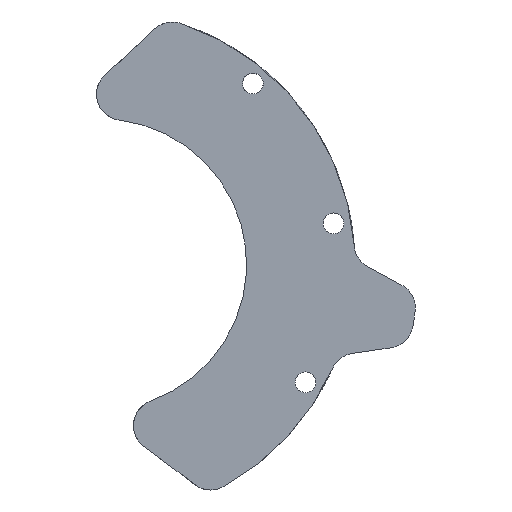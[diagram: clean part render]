
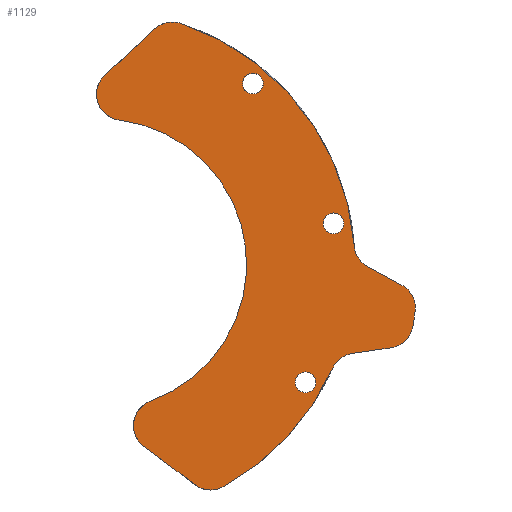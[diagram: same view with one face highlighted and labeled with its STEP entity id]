
A CAD part, left-side view. The second image highlights one B-rep face of the part: STEP entity #1129.
In plain terms, the highlighted planar face has unit normal (-1, 0, 0).
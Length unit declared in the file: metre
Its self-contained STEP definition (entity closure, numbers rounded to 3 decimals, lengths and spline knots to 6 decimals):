
#14=PLANE('',#1263);
#117=LINE('',#2453,#191);
#118=LINE('',#2459,#192);
#119=LINE('',#2461,#193);
#120=LINE('',#2464,#194);
#121=LINE('',#2468,#195);
#191=VECTOR('',#1551,1.);
#192=VECTOR('',#1556,1.);
#193=VECTOR('',#1559,1.);
#194=VECTOR('',#1562,1.);
#195=VECTOR('',#1565,1.);
#391=ORIENTED_EDGE('',*,*,#684,.T.);
#392=ORIENTED_EDGE('',*,*,#685,.F.);
#393=ORIENTED_EDGE('',*,*,#686,.T.);
#394=ORIENTED_EDGE('',*,*,#581,.T.);
#395=ORIENTED_EDGE('',*,*,#687,.F.);
#396=ORIENTED_EDGE('',*,*,#586,.T.);
#397=ORIENTED_EDGE('',*,*,#688,.F.);
#398=ORIENTED_EDGE('',*,*,#572,.T.);
#399=ORIENTED_EDGE('',*,*,#689,.T.);
#400=ORIENTED_EDGE('',*,*,#576,.T.);
#401=ORIENTED_EDGE('',*,*,#552,.T.);
#402=ORIENTED_EDGE('',*,*,#690,.F.);
#403=ORIENTED_EDGE('',*,*,#691,.F.);
#404=ORIENTED_EDGE('',*,*,#692,.F.);
#405=ORIENTED_EDGE('',*,*,#693,.T.);
#406=ORIENTED_EDGE('',*,*,#694,.F.);
#407=ORIENTED_EDGE('',*,*,#566,.F.);
#408=ORIENTED_EDGE('',*,*,#562,.F.);
#409=ORIENTED_EDGE('',*,*,#558,.F.);
#552=EDGE_CURVE('',#721,#722,#829,.T.);
#558=EDGE_CURVE('',#727,#727,#832,.T.);
#562=EDGE_CURVE('',#731,#731,#835,.T.);
#566=EDGE_CURVE('',#735,#735,#838,.T.);
#572=EDGE_CURVE('',#741,#740,#842,.T.);
#576=EDGE_CURVE('',#744,#721,#845,.T.);
#581=EDGE_CURVE('',#749,#748,#847,.T.);
#586=EDGE_CURVE('',#754,#753,#849,.T.);
#684=EDGE_CURVE('',#815,#816,#117,.T.);
#685=EDGE_CURVE('',#817,#816,#888,.T.);
#686=EDGE_CURVE('',#817,#749,#889,.T.);
#687=EDGE_CURVE('',#754,#748,#118,.T.);
#688=EDGE_CURVE('',#741,#753,#890,.T.);
#689=EDGE_CURVE('',#740,#744,#119,.T.);
#690=EDGE_CURVE('',#818,#722,#891,.T.);
#691=EDGE_CURVE('',#819,#818,#120,.T.);
#692=EDGE_CURVE('',#820,#819,#892,.F.);
#693=EDGE_CURVE('',#820,#821,#121,.T.);
#694=EDGE_CURVE('',#815,#821,#893,.F.);
#721=VERTEX_POINT('',#1649);
#722=VERTEX_POINT('',#1650);
#727=VERTEX_POINT('',#1668);
#731=VERTEX_POINT('',#1684);
#735=VERTEX_POINT('',#1700);
#740=VERTEX_POINT('',#1715);
#741=VERTEX_POINT('',#1717);
#744=VERTEX_POINT('',#1725);
#748=VERTEX_POINT('',#1737);
#749=VERTEX_POINT('',#1739);
#753=VERTEX_POINT('',#1751);
#754=VERTEX_POINT('',#1753);
#815=VERTEX_POINT('',#2454);
#816=VERTEX_POINT('',#2455);
#817=VERTEX_POINT('',#2457);
#818=VERTEX_POINT('',#2463);
#819=VERTEX_POINT('',#2465);
#820=VERTEX_POINT('',#2467);
#821=VERTEX_POINT('',#2469);
#829=CIRCLE('',#1166,0.03925);
#832=CIRCLE('',#1170,0.0016);
#835=CIRCLE('',#1175,0.0016);
#838=CIRCLE('',#1180,0.0016);
#842=CIRCLE('',#1186,0.004);
#845=CIRCLE('',#1190,0.004);
#847=CIRCLE('',#1193,0.004);
#849=CIRCLE('',#1196,0.004);
#888=CIRCLE('',#1264,0.004);
#889=CIRCLE('',#1265,0.03925);
#890=CIRCLE('',#1266,0.0225);
#891=CIRCLE('',#1267,0.004);
#892=CIRCLE('',#1268,0.004);
#893=CIRCLE('',#1269,0.004);
#951=EDGE_LOOP('',(#391,#392,#393,#394,#395,#396,#397,#398,#399,#400,#401,
#402,#403,#404,#405,#406));
#952=EDGE_LOOP('',(#407));
#953=EDGE_LOOP('',(#408));
#954=EDGE_LOOP('',(#409));
#1026=FACE_BOUND('',#951,.T.);
#1027=FACE_BOUND('',#952,.T.);
#1028=FACE_BOUND('',#953,.T.);
#1029=FACE_BOUND('',#954,.T.);
#1129=ADVANCED_FACE('',(#1026,#1027,#1028,#1029),#14,.F.);
#1166=AXIS2_PLACEMENT_3D('',#1648,#1304,#1305);
#1170=AXIS2_PLACEMENT_3D('',#1667,#1314,#1315);
#1175=AXIS2_PLACEMENT_3D('',#1683,#1324,#1325);
#1180=AXIS2_PLACEMENT_3D('',#1699,#1334,#1335);
#1186=AXIS2_PLACEMENT_3D('',#1716,#1347,#1348);
#1190=AXIS2_PLACEMENT_3D('',#1724,#1356,#1357);
#1193=AXIS2_PLACEMENT_3D('',#1738,#1364,#1365);
#1196=AXIS2_PLACEMENT_3D('',#1752,#1372,#1373);
#1263=AXIS2_PLACEMENT_3D('',#2452,#1549,#1550);
#1264=AXIS2_PLACEMENT_3D('',#2456,#1552,#1553);
#1265=AXIS2_PLACEMENT_3D('',#2458,#1554,#1555);
#1266=AXIS2_PLACEMENT_3D('',#2460,#1557,#1558);
#1267=AXIS2_PLACEMENT_3D('',#2462,#1560,#1561);
#1268=AXIS2_PLACEMENT_3D('',#2466,#1563,#1564);
#1269=AXIS2_PLACEMENT_3D('',#2470,#1566,#1567);
#1304=DIRECTION('',(-1.,0.,0.));
#1305=DIRECTION('',(0.,0.,1.));
#1314=DIRECTION('',(-1.,0.,0.));
#1315=DIRECTION('',(0.,0.,1.));
#1324=DIRECTION('',(-1.,0.,0.));
#1325=DIRECTION('',(0.,0.,1.));
#1334=DIRECTION('',(-1.,0.,0.));
#1335=DIRECTION('',(0.,0.,1.));
#1347=DIRECTION('',(-1.,0.,0.));
#1348=DIRECTION('',(0.,0.,1.));
#1356=DIRECTION('',(-1.,0.,0.));
#1357=DIRECTION('',(0.,0.,1.));
#1364=DIRECTION('',(-1.,0.,0.));
#1365=DIRECTION('',(0.,0.,1.));
#1372=DIRECTION('',(-1.,0.,0.));
#1373=DIRECTION('',(0.,0.,1.));
#1549=DIRECTION('',(1.,0.,0.));
#1550=DIRECTION('',(0.,-1.,0.));
#1551=DIRECTION('',(0.,0.879,0.477));
#1552=DIRECTION('',(-1.,0.,0.));
#1553=DIRECTION('',(0.,0.,1.));
#1554=DIRECTION('',(-1.,0.,0.));
#1555=DIRECTION('',(0.,0.,1.));
#1556=DIRECTION('',(0.,-0.731,0.682));
#1557=DIRECTION('',(-1.,0.,0.));
#1558=DIRECTION('',(0.,0.,1.));
#1559=DIRECTION('',(0.,-0.799,-0.602));
#1560=DIRECTION('',(-1.,0.,0.));
#1561=DIRECTION('',(0.,0.,1.));
#1562=DIRECTION('',(0.,0.989,-0.145));
#1563=DIRECTION('',(-1.,0.,0.));
#1564=DIRECTION('',(0.,0.,1.));
#1565=DIRECTION('',(0.,-0.155,0.988));
#1566=DIRECTION('',(-1.,0.,0.));
#1567=DIRECTION('',(0.,0.,1.));
#1648=CARTESIAN_POINT('',(-0.117,-0.003,-0.553));
#1649=CARTESIAN_POINT('',(-0.117,-0.021855,-0.587425));
#1650=CARTESIAN_POINT('',(-0.117,-0.038795,-0.569102));
#1667=CARTESIAN_POINT('',(-0.117,-0.026459,-0.525037));
#1668=CARTESIAN_POINT('',(-0.117,-0.026459,-0.523437));
#1683=CARTESIAN_POINT('',(-0.117,-0.038945,-0.546658));
#1684=CARTESIAN_POINT('',(-0.117,-0.038945,-0.545058));
#1699=CARTESIAN_POINT('',(-0.117,-0.034612,-0.571247));
#1700=CARTESIAN_POINT('',(-0.117,-0.034612,-0.569647));
#1715=CARTESIAN_POINT('',(-0.117,-0.009581,-0.581124));
#1716=CARTESIAN_POINT('',(-0.117,-0.011988,-0.577929));
#1717=CARTESIAN_POINT('',(-0.117,-0.010632,-0.574166));
#1724=CARTESIAN_POINT('',(-0.117,-0.019934,-0.583916));
#1725=CARTESIAN_POINT('',(-0.117,-0.017526,-0.587111));
#1737=CARTESIAN_POINT('',(-0.117,-0.011262,-0.516582));
#1738=CARTESIAN_POINT('',(-0.117,-0.01399,-0.519507));
#1739=CARTESIAN_POINT('',(-0.117,-0.015237,-0.515706));
#1751=CARTESIAN_POINT('',(-0.117,-0.005779,-0.530672));
#1752=CARTESIAN_POINT('',(-0.117,-0.006273,-0.526703));
#1753=CARTESIAN_POINT('',(-0.117,-0.003545,-0.523778));
#2452=CARTESIAN_POINT('',(-0.117,-0.003,-0.553));
#2453=CARTESIAN_POINT('',(-0.117,-0.047125,-0.554924));
#2454=CARTESIAN_POINT('',(-0.117,-0.049526,-0.556228));
#2455=CARTESIAN_POINT('',(-0.117,-0.044225,-0.553349));
#2456=CARTESIAN_POINT('',(-0.117,-0.046134,-0.549834));
#2457=CARTESIAN_POINT('',(-0.117,-0.042145,-0.550127));
#2458=CARTESIAN_POINT('',(-0.117,-0.003,-0.553));
#2459=CARTESIAN_POINT('',(-0.117,-0.003758,-0.52358));
#2460=CARTESIAN_POINT('',(-0.117,-0.003,-0.553));
#2461=CARTESIAN_POINT('',(-0.117,-0.010803,-0.582045));
#2462=CARTESIAN_POINT('',(-0.117,-0.042443,-0.570743));
#2463=CARTESIAN_POINT('',(-0.117,-0.041861,-0.566786));
#2464=CARTESIAN_POINT('',(-0.117,-0.045194,-0.566296));
#2465=CARTESIAN_POINT('',(-0.117,-0.047851,-0.565906));
#2466=CARTESIAN_POINT('',(-0.117,-0.04727,-0.561948));
#2467=CARTESIAN_POINT('',(-0.117,-0.051221,-0.56257));
#2468=CARTESIAN_POINT('',(-0.117,-0.051385,-0.561527));
#2469=CARTESIAN_POINT('',(-0.117,-0.051568,-0.560364));
#2470=CARTESIAN_POINT('',(-0.117,-0.047617,-0.559743));
